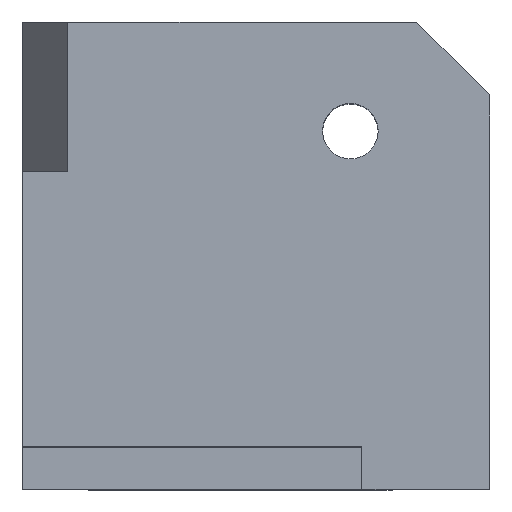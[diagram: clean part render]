
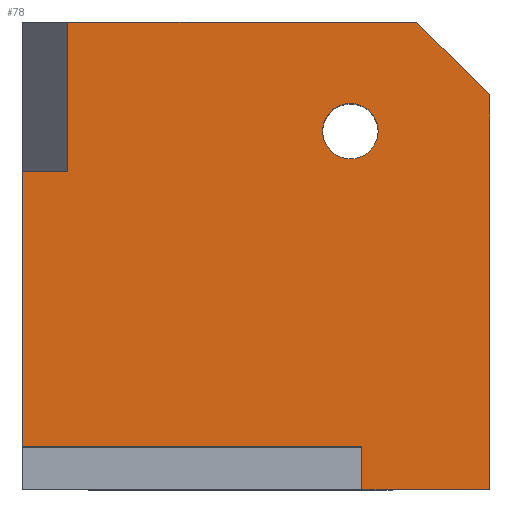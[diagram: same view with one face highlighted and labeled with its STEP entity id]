
A CAD part, top view. The second image highlights one B-rep face of the part: STEP entity #78.
In plain terms, the highlighted planar face has unit normal (0, 0, 1).
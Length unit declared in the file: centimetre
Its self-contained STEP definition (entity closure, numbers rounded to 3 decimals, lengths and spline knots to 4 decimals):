
#4 = EDGE_CURVE ( 'NONE', #912, #759, #326, .T. ) ;
#12 = DIRECTION ( 'NONE',  ( 0., 0., -1. ) ) ;
#17 = ORIENTED_EDGE ( 'NONE', *, *, #4, .T. ) ;
#36 = LINE ( 'NONE', #166, #702 ) ;
#60 = CARTESIAN_POINT ( 'NONE',  ( 701.942, 766.4786, 1000. ) ) ;
#78 = ADVANCED_FACE ( 'NONE', ( #989, #521 ), #541, .T. ) ;
#89 = DIRECTION ( 'NONE',  ( 1., 0., 0. ) ) ;
#90 = EDGE_CURVE ( 'NONE', #1027, #310, #723, .T. ) ;
#106 = ORIENTED_EDGE ( 'NONE', *, *, #90, .T. ) ;
#111 = CIRCLE ( 'NONE', #819, 59.3871 ) ;
#113 = VERTEX_POINT ( 'NONE', #625 ) ;
#120 = CARTESIAN_POINT ( 'NONE',  ( 761.3291, 766.4786, 1000. ) ) ;
#148 = VECTOR ( 'NONE', #653, 100. ) ;
#166 = CARTESIAN_POINT ( 'NONE',  ( 726.6854, 90.6285, 1000. ) ) ;
#187 = ORIENTED_EDGE ( 'NONE', *, *, #969, .F. ) ;
#221 = EDGE_CURVE ( 'NONE', #462, #310, #36, .T. ) ;
#244 = VECTOR ( 'NONE', #89, 100. ) ;
#246 = DIRECTION ( 'NONE',  ( 1., 0., 0. ) ) ;
#259 = DIRECTION ( 'NONE',  ( 0., 1., 0. ) ) ;
#290 = CARTESIAN_POINT ( 'NONE',  ( 701.942, 766.4786, 1000. ) ) ;
#310 = VERTEX_POINT ( 'NONE', #1104 ) ;
#326 = CIRCLE ( 'NONE', #646, 59.3871 ) ;
#342 = CARTESIAN_POINT ( 'NONE',  ( 0., 0., 1000. ) ) ;
#343 = DIRECTION ( 'NONE',  ( 0., -1., 0. ) ) ;
#345 = LINE ( 'NONE', #1194, #367 ) ;
#359 = LINE ( 'NONE', #342, #1064 ) ;
#365 = CARTESIAN_POINT ( 'NONE',  ( 726.6854, 0., 1000. ) ) ;
#367 = VECTOR ( 'NONE', #259, 100. ) ;
#396 = LINE ( 'NONE', #403, #743 ) ;
#403 = CARTESIAN_POINT ( 'NONE',  ( 726.6854, 0., 1000. ) ) ;
#451 = VECTOR ( 'NONE', #469, 100. ) ;
#459 = LINE ( 'NONE', #1213, #781 ) ;
#462 = VERTEX_POINT ( 'NONE', #1048 ) ;
#469 = DIRECTION ( 'NONE',  ( 0., 1., 0. ) ) ;
#472 = CARTESIAN_POINT ( 'NONE',  ( 843.8086, 1000., 1000. ) ) ;
#474 = ORIENTED_EDGE ( 'NONE', *, *, #577, .F. ) ;
#481 = CARTESIAN_POINT ( 'NONE',  ( 0., 679.8504, 1000. ) ) ;
#485 = ORIENTED_EDGE ( 'NONE', *, *, #952, .T. ) ;
#492 = ORIENTED_EDGE ( 'NONE', *, *, #784, .F. ) ;
#505 = VERTEX_POINT ( 'NONE', #472 ) ;
#521 = FACE_BOUND ( 'NONE', #778, .T. ) ;
#524 = DIRECTION ( 'NONE',  ( 0., 0., -1. ) ) ;
#541 = PLANE ( 'NONE',  #758 ) ;
#552 = CARTESIAN_POINT ( 'NONE',  ( 0., 1000., 1000. ) ) ;
#561 = LINE ( 'NONE', #937, #244 ) ;
#573 = ORIENTED_EDGE ( 'NONE', *, *, #852, .T. ) ;
#577 = EDGE_CURVE ( 'NONE', #891, #462, #396, .T. ) ;
#587 = EDGE_LOOP ( 'NONE', ( #910, #474, #573, #953, #485, #683, #492, #187, #106 ) ) ;
#625 = CARTESIAN_POINT ( 'NONE',  ( 1000., 843.8086, 1000. ) ) ;
#638 = CARTESIAN_POINT ( 'NONE',  ( 642.555, 766.4786, 1000. ) ) ;
#646 = AXIS2_PLACEMENT_3D ( 'NONE', #60, #524, #1094 ) ;
#653 = DIRECTION ( 'NONE',  ( -1., 0., 0. ) ) ;
#683 = ORIENTED_EDGE ( 'NONE', *, *, #915, .T. ) ;
#702 = VECTOR ( 'NONE', #779, 100. ) ;
#721 = VECTOR ( 'NONE', #343, 100. ) ;
#723 = LINE ( 'NONE', #1181, #721 ) ;
#724 = CARTESIAN_POINT ( 'NONE',  ( 97.0088, 1000., 1000. ) ) ;
#737 = DIRECTION ( 'NONE',  ( -0.707, 0.707, 0. ) ) ;
#743 = VECTOR ( 'NONE', #1058, 100. ) ;
#758 = AXIS2_PLACEMENT_3D ( 'NONE', #907, #805, #1193 ) ;
#759 = VERTEX_POINT ( 'NONE', #120 ) ;
#762 = EDGE_CURVE ( 'NONE', #759, #912, #111, .T. ) ;
#778 = EDGE_LOOP ( 'NONE', ( #17, #1088 ) ) ;
#779 = DIRECTION ( 'NONE',  ( -1., 0., 0. ) ) ;
#781 = VECTOR ( 'NONE', #737, 100. ) ;
#784 = EDGE_CURVE ( 'NONE', #943, #1122, #949, .T. ) ;
#805 = DIRECTION ( 'NONE',  ( 0., 0., 1. ) ) ;
#819 = AXIS2_PLACEMENT_3D ( 'NONE', #290, #12, #1128 ) ;
#824 = CARTESIAN_POINT ( 'NONE',  ( 97.0088, 679.8504, 1000. ) ) ;
#852 = EDGE_CURVE ( 'NONE', #891, #1165, #359, .T. ) ;
#891 = VERTEX_POINT ( 'NONE', #365 ) ;
#907 = CARTESIAN_POINT ( 'NONE',  ( 0., 0., 1000. ) ) ;
#910 = ORIENTED_EDGE ( 'NONE', *, *, #221, .F. ) ;
#912 = VERTEX_POINT ( 'NONE', #638 ) ;
#915 = EDGE_CURVE ( 'NONE', #505, #1122, #921, .T. ) ;
#921 = LINE ( 'NONE', #552, #148 ) ;
#937 = CARTESIAN_POINT ( 'NONE',  ( 97.0088, 679.8504, 1000. ) ) ;
#943 = VERTEX_POINT ( 'NONE', #1033 ) ;
#949 = LINE ( 'NONE', #824, #451 ) ;
#952 = EDGE_CURVE ( 'NONE', #113, #505, #459, .T. ) ;
#953 = ORIENTED_EDGE ( 'NONE', *, *, #1131, .T. ) ;
#969 = EDGE_CURVE ( 'NONE', #1027, #943, #561, .T. ) ;
#989 = FACE_OUTER_BOUND ( 'NONE', #587, .T. ) ;
#1027 = VERTEX_POINT ( 'NONE', #481 ) ;
#1033 = CARTESIAN_POINT ( 'NONE',  ( 97.0088, 679.8504, 1000. ) ) ;
#1048 = CARTESIAN_POINT ( 'NONE',  ( 726.6854, 90.6285, 1000. ) ) ;
#1058 = DIRECTION ( 'NONE',  ( 0., 1., 0. ) ) ;
#1064 = VECTOR ( 'NONE', #246, 100. ) ;
#1088 = ORIENTED_EDGE ( 'NONE', *, *, #762, .T. ) ;
#1094 = DIRECTION ( 'NONE',  ( -1., 0., 0. ) ) ;
#1104 = CARTESIAN_POINT ( 'NONE',  ( 0., 90.6285, 1000. ) ) ;
#1122 = VERTEX_POINT ( 'NONE', #724 ) ;
#1124 = CARTESIAN_POINT ( 'NONE',  ( 1000., 0., 1000. ) ) ;
#1128 = DIRECTION ( 'NONE',  ( -1., 0., 0. ) ) ;
#1131 = EDGE_CURVE ( 'NONE', #1165, #113, #345, .T. ) ;
#1165 = VERTEX_POINT ( 'NONE', #1124 ) ;
#1181 = CARTESIAN_POINT ( 'NONE',  ( 0., 1000., 1000. ) ) ;
#1193 = DIRECTION ( 'NONE',  ( 1., 0., 0. ) ) ;
#1194 = CARTESIAN_POINT ( 'NONE',  ( 1000., 1000., 1000. ) ) ;
#1213 = CARTESIAN_POINT ( 'NONE',  ( 921.9043, 921.9043, 1000. ) ) ;
